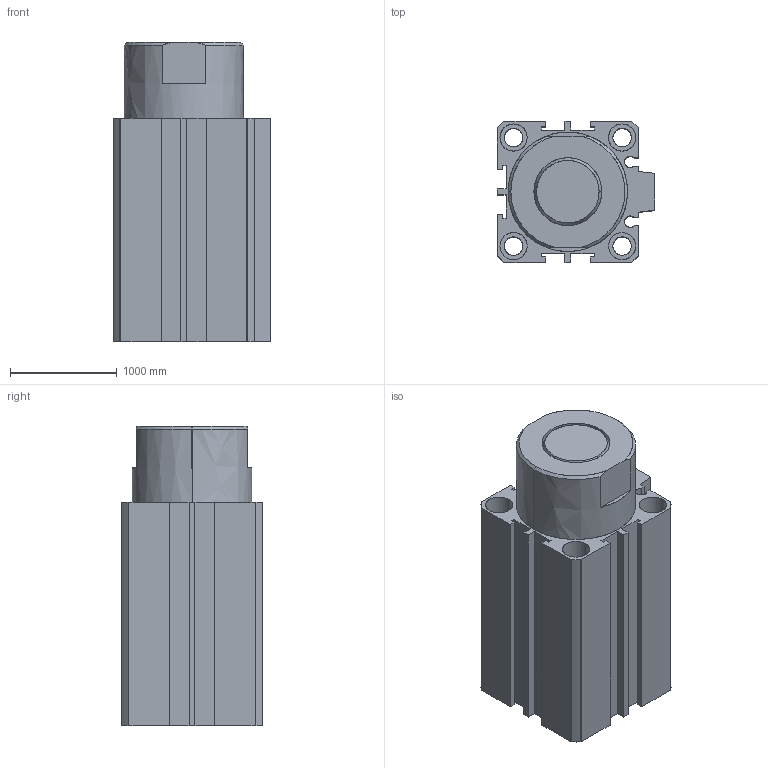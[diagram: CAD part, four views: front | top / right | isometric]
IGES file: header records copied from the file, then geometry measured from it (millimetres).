
Start section: SolidWorks IGES file using analytic representation for surfaces
Global section: file name: C:\Documents and Settings\Standard\Bureau\NM pieces 3d\ELO 40 30 tige entrée.IGS; native system: SolidWorks 2007; preprocessor: SolidWorks 2007; author: Standard; date: 080328.105147; units: inch
Bounding box: 1473.2 x 1320.8 x 2799.08 mm (x, y, z)
Surface area: 34448837.8 mm2 (no closed solid volume)
Topology: 0 solids, 0 shells, 538 faces, 13389 edges, 13427 vertices
Faces by surface type: bspline 483, revolution 55
